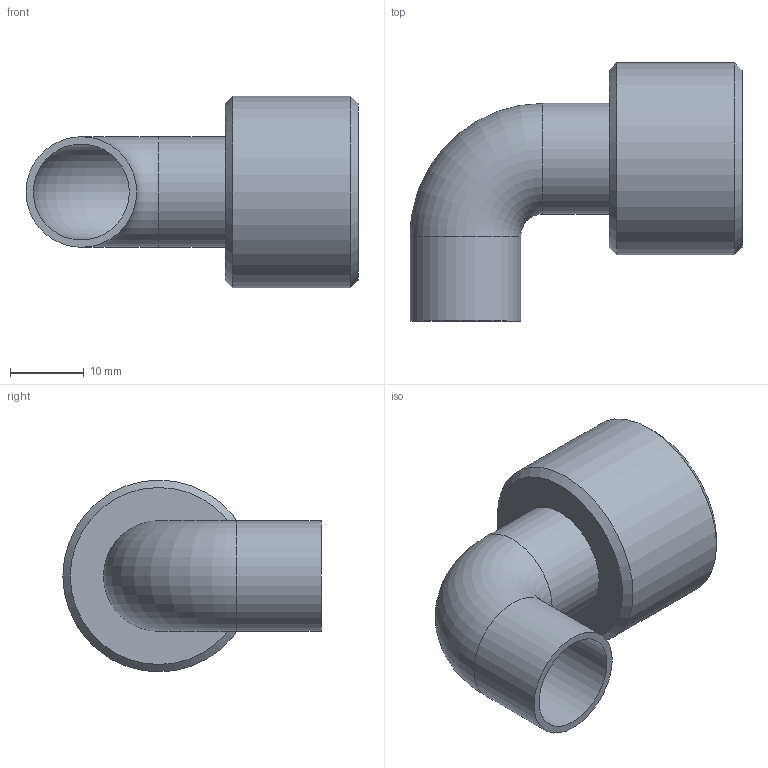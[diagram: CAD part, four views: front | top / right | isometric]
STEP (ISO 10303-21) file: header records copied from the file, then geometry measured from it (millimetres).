
FILE_DESCRIPTION( ( 'STEP AP203' ), '1' );
FILE_NAME( 'C:/Temp/Ganter_Step_05_03_2020/data/3_5/gn880_1/gn880_1_ans/gn880_1_c/Connector piece withot drain hose GN 880.1-22-C.stp', '2020-03-12T13:42:26', ( 'License CC BY-ND 4.0' ), ( 'CADENAS' ), ' ', 'PARTsolutions', ' ' );
FILE_SCHEMA( ( 'CONFIG_CONTROL_DESIGN' ) );
Length unit declared in the file: millimetre
Products named in the file (3): Connector piece withot drain hose GN 880.1-22-C; _Anschlussstueck ohne Ablassschlauch GN 880.1-22-C_a; _Anschlussstueck ohne Ablassschlauch GN 880.1-22-C_dk2
Assembly tree (2 placements, depth 2):
  Connector piece withot drain hose GN 880.1-22-C
    _Anschlussstueck ohne Ablassschlauch GN 880.1-22-C_a
    _Anschlussstueck ohne Ablassschlauch GN 880.1-22-C_dk2
Bounding box: 45 x 35 x 26 mm (x, y, z)
Volume: 8226.6 mm3; surface area: 8359.1 mm2
Topology: 2 solids, 2 shells, 33 faces, 54 edges, 34 vertices
Faces by surface type: cylinder 13, plane 13, torus 4, cone 3
Full cylindrical faces by diameter (mm): 8.5 x1, 9.5 x1, 10.5 x2, 13 x2, 15 x4, 20 x1, 20.376 x1, 26 x1
Entity records: 770 total; most frequent: DIRECTION 136, CARTESIAN_POINT 101, AXIS2_PLACEMENT_3D 68, EDGE_LOOP 64, ORIENTED_EDGE 64, FACE_OUTER_BOUND 50, ADVANCED_FACE 33, VERTEX_POINT 33
